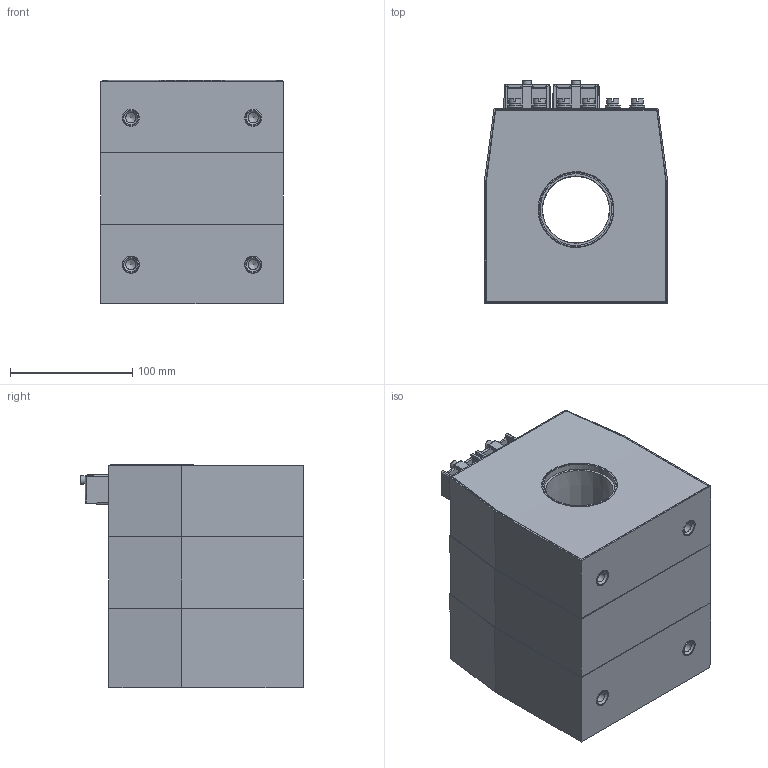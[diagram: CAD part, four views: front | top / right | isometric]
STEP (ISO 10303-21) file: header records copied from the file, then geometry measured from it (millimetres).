
FILE_DESCRIPTION(('STEP AP203'), '1');
FILE_NAME('ÒØÏ-ÍÒÇ-0,66-73À (55 ìì, 3-é ãàáàðèò)', '2025-08-27T09:38:34', ('UNSPECIFIED'), ('UNSPECIFIED'), 'ASCON STEP Converter 1.3', 'ASCON Math Kernel', '');
FILE_SCHEMA(('CONFIG_CONTROL_DESIGN'));
Length unit declared in the file: millimetre
Assembly tree (42 placements, depth 2):
  (unnamed)
    (unnamed)
    (unnamed)
    (unnamed)
    (unnamed)  x3
    (unnamed)  x4
    (unnamed)  x2
    (unnamed)  x6
    (unnamed)  x2
    (unnamed)  x6
    (unnamed)  x6
    (unnamed)  x6
    (unnamed)  x2
    (unnamed)  x2
Bounding box: 150 x 182.93 x 182.68 mm (x, y, z)
Volume: 750888.8 mm3; surface area: 473963.2 mm2
Topology: 42 solids, 42 shells, 655 faces, 1454 edges, 907 vertices
Faces by surface type: plane 349, cylinder 189, cone 81, torus 20, bspline 16
Full cylindrical faces by diameter (mm): 3.244 x2, 3.95 x2, 4 x6, 4.5 x2, 4.8 x6, 4.92 x6, 6 x14, 6.4 x6, 7 x2, 7.1 x4, 8 x2, 8.376 x4, 10 x12, 10.1 x6, 12 x12, 14 x8, 17 x4, 55 x1, 55.05 x1, 58.599 x6, 58.6 x1, 61 x2, 65.05 x1, 68.6 x1
Entity records: 14253 total; most frequent: CARTESIAN_POINT 2823, DIRECTION 1588, ORIENTED_EDGE 1398, EDGE_CURVE 699, AXIS2_PLACEMENT_3D 575, VERTEX_POINT 492, EDGE_LOOP 469, LINE 438
